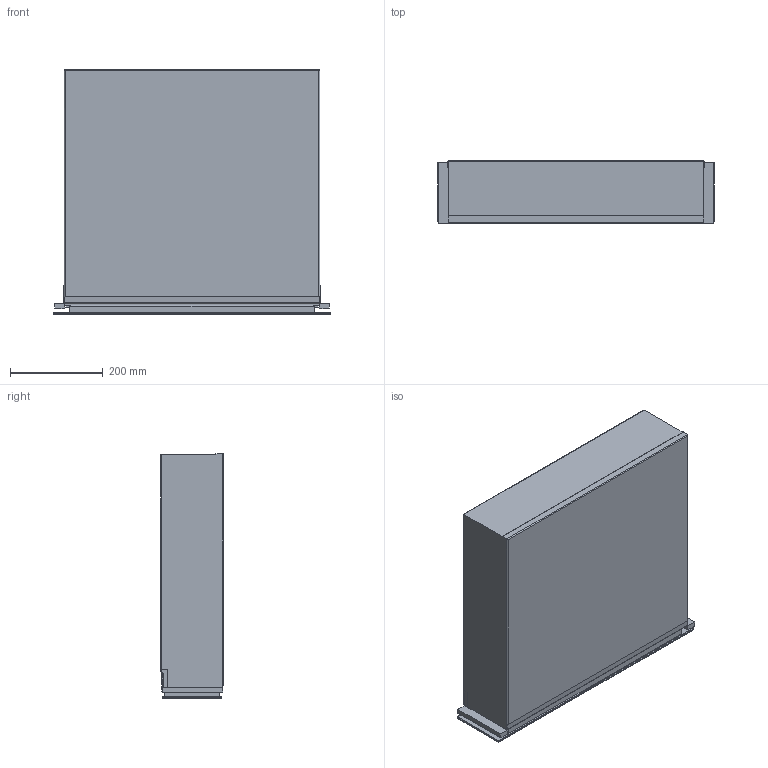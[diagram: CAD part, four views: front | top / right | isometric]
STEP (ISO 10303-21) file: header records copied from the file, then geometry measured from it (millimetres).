
FILE_DESCRIPTION (( 'STEP AP214' ), '1' );
FILE_NAME ('Linea.STEP', '2017-12-01T09:44:13', ( '' ), ( '' ), 'SwSTEP 2.0', 'SolidWorks 2016', '' );
FILE_SCHEMA (( 'AUTOMOTIVE_DESIGN' ));
Length unit declared in the file: millimetre
Products named in the file (1): Linea
Bounding box: 597 x 135 x 527.9 mm (x, y, z)
Volume: 38817151.5 mm3; surface area: 1213206.8 mm2
Topology: 6 solids, 6 shells, 190 faces, 469 edges, 298 vertices
Faces by surface type: plane 97, cylinder 64, bspline 21, torus 8
Entity records: 5710 total; most frequent: CARTESIAN_POINT 1348, ORIENTED_EDGE 938, DIRECTION 837, EDGE_CURVE 469, VERTEX_POINT 298, LINE 295, VECTOR 295, AXIS2_PLACEMENT_3D 271
